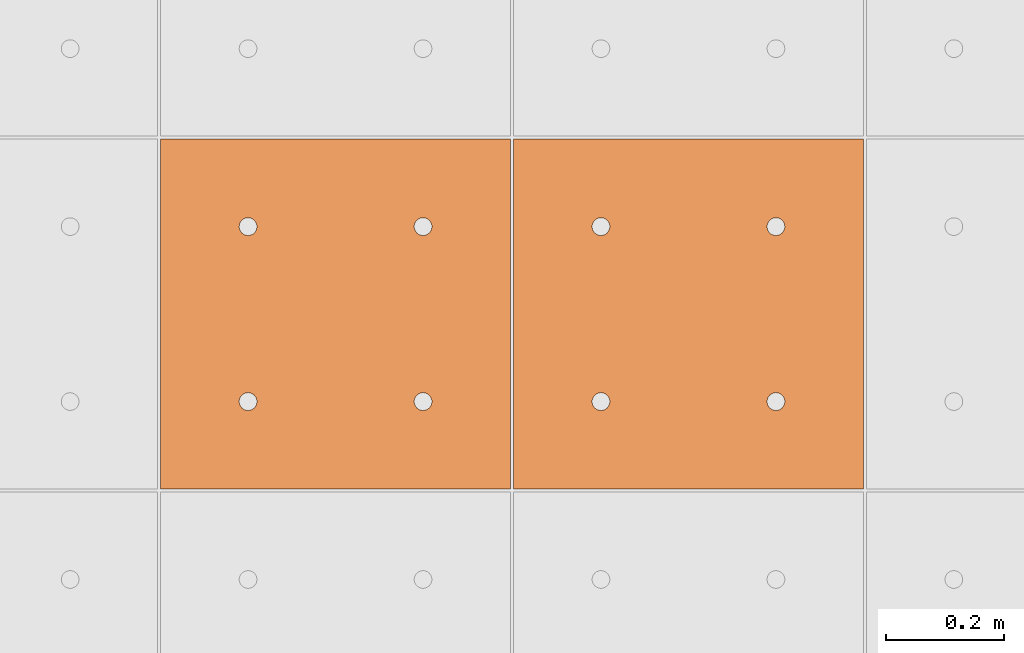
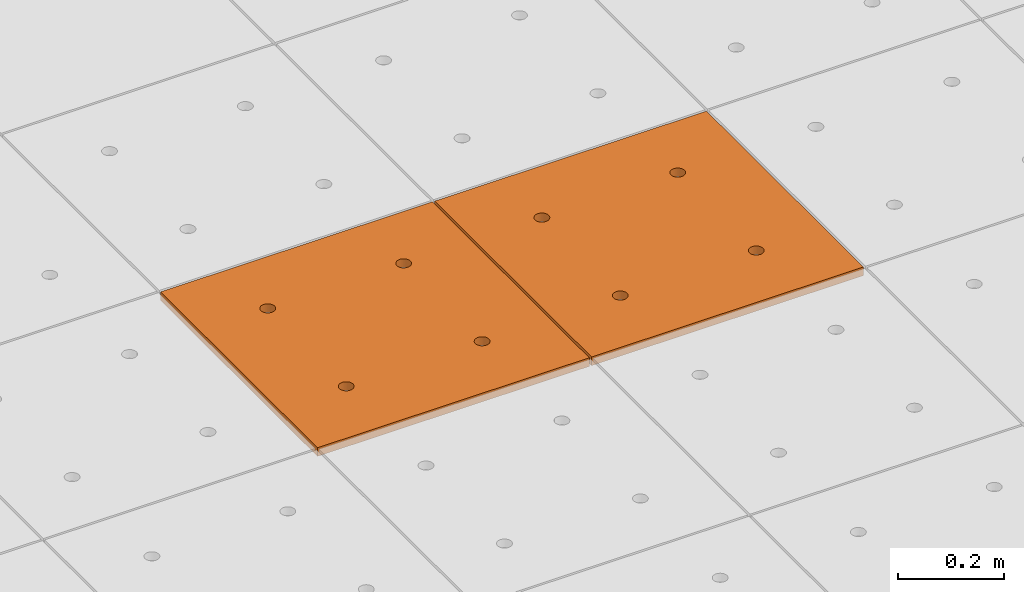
# One storey, part 262 of 338: 2 proxies, 1 element without a shape of its own.
"""IFC2X3 building model written with IfcOpenShell, lengths in millimetres."""

from ifc_helpers import new_model, entity, si_unit, converted_unit, derived_unit, money_unit, direction, frame, origin_with_axes, place, context, subcontext, project, spatial, faceted_brep, source, transform, mapped, material, type_object, type_shapes, element, aggregate, save


model = new_model("IFC2X3")

# Units and contexts
model_context = context("Model", 3, precision=0.01, world=origin_with_axes(), true_north=direction((0.0, 1.0)))
plan_context = context("Plan", 3, precision=0.01, world=origin_with_axes(), true_north=direction((0.0, 1.0)))
body_context = subcontext(model_context, "Body", "Model", "MODEL_VIEW")
ifc_project = project(units=[si_unit("LENGTHUNIT", "METRE", prefix="MILLI"), si_unit("AREAUNIT", "SQUARE_METRE"), si_unit("VOLUMEUNIT", "CUBIC_METRE"), converted_unit("PLANEANGLEUNIT", "DEGREE", entity("IfcPlaneAngleMeasure", 0.0174532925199), si_unit("PLANEANGLEUNIT", "RADIAN"), dimensions=[0, 0, 0, 0, 0, 0, 0]), money_unit("EUR"), converted_unit("TIMEUNIT", "Year", entity("IfcTimeMeasure", 31556926.0), si_unit("TIMEUNIT", "SECOND"), dimensions=[0, 0, 1, 0, 0, 0, 0]), si_unit("MASSUNIT", "GRAM", prefix="KILO"), si_unit("THERMODYNAMICTEMPERATUREUNIT", "DEGREE_CELSIUS"), si_unit("LUMINOUSINTENSITYUNIT", "LUMEN"), si_unit("ENERGYUNIT", "JOULE", prefix="MEGA"), derived_unit("THERMALCONDUCTANCEUNIT", [(si_unit("POWERUNIT", "WATT"), 1), (si_unit("LENGTHUNIT", "METRE"), -1), (si_unit("THERMODYNAMICTEMPERATUREUNIT", "KELVIN"), -1)]), derived_unit("SPECIFICHEATCAPACITYUNIT", [(si_unit("ENERGYUNIT", "JOULE"), 1), (si_unit("MASSUNIT", "GRAM", prefix="KILO"), -1), (si_unit("THERMODYNAMICTEMPERATUREUNIT", "KELVIN"), -1)]), derived_unit("MASSDENSITYUNIT", [(si_unit("MASSUNIT", "GRAM", prefix="KILO"), 1), (si_unit("VOLUMEUNIT", "CUBIC_METRE"), -1)])], contexts=[model_context, plan_context])

# Site, building, storey
site_placement = place(None, origin_with_axes())
site = spatial("IfcSite", under=ifc_project, at=site_placement, Name="Fortuinstraat Woensdrecht", CompositionType="ELEMENT")
building_placement = place(site_placement, origin_with_axes())
building = spatial("IfcBuilding", under=site, at=building_placement, Name="IKC Fortuna", CompositionType="ELEMENT")
storey_placement = place(building_placement, origin_with_axes())
storey = spatial("IfcBuildingStorey", under=building, at=storey_placement, Name="00 begane grond", CompositionType="ELEMENT", Elevation=0.0)

# Covering, proxies
covering_type = type_object("IfcCoveringType", Name="Curtain Wall Type", PredefinedType="CEILING")
covering_placement = place(storey_placement, frame((31656.9226967, 15748.5304598, 3210.0), z_axis=(0.0, 0.0, 1.0), x_axis=(1.0, 0.0, 0.0)))
covering = element("IfcCovering", 1, at=covering_placement, inside=storey, type_object=covering_type, Name="45_Plafondafwerking_P01", PredefinedType="CEILING")
ifc_material = material(Name="Gipsplaat")
building_element_proxy_type = type_object("IfcBuildingElementProxyType", Name="Main Panel 600 x 600 x 20", PredefinedType="NOTDEFINED")
shared_shape = source(origin_with_axes(), body_context, "Body", "Brep", [
    faceted_brep([(2.49999999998, 2.49999999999, -10.0), (300.0, 2.49999999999, -10.0), (300.0, 2.49999999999, 10.0), (2.49999999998, 2.49999999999, 10.0), (2.49999999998, 300.0, -10.0), (2.49999999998, 597.5, -10.0), (300.0, 597.5, -10.0), (597.5, 597.5, -10.0), (597.5, 300.0, -10.0), (597.5, 2.49999999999, -10.0), (166.25, 450.06232995, -10.0), (165.79423259, 452.64711538, -10.0), (164.896546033, 455.11348892, -10.0), (163.58421608, 457.38651108, -10.0), (161.897117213, 459.39711721, -10.0), (159.886511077, 461.08421608, -10.0), (157.613488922, 462.39654603, -10.0), (155.147115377, 463.29423259, -10.0), (152.562329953, 463.75, -10.0), (149.937670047, 463.75, -10.0), (147.352884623, 463.29423259, -10.0), (144.886511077, 462.39654603, -10.0), (142.613488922, 461.08421608, -10.0), (140.602882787, 459.39711721, -10.0), (138.91578392, 457.38651108, -10.0), (137.603453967, 455.11348892, -10.0), (136.705767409, 452.64711538, -10.0), (136.25, 450.06232995, -10.0), (136.25, 448.75, -10.0), (136.25, 447.43767005, -10.0), (136.705767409, 444.85288462, -10.0), (137.603453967, 442.38651108, -10.0), (138.91578392, 440.11348892, -10.0), (140.602882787, 438.10288279, -10.0), (142.613488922, 436.41578392, -10.0), (144.886511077, 435.10345397, -10.0), (147.352884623, 434.20576741, -10.0), (149.937670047, 433.75, -10.0), (152.562329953, 433.75, -10.0), (155.147115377, 434.20576741, -10.0), (157.613488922, 435.10345397, -10.0), (159.886511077, 436.41578392, -10.0), (161.897117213, 438.10288279, -10.0), (163.58421608, 440.11348892, -10.0), (164.896546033, 442.38651108, -10.0), (165.79423259, 444.85288462, -10.0), (166.25, 447.43767005, -10.0), (463.75, 450.06232995, -10.0), (463.29423259, 452.64711538, -10.0), (462.396546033, 455.11348892, -10.0), (461.08421608, 457.38651108, -10.0), (459.397117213, 459.39711721, -10.0), (457.386511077, 461.08421608, -10.0), (455.113488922, 462.39654603, -10.0), (452.647115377, 463.29423259, -10.0), (450.062329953, 463.75, -10.0), (447.437670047, 463.75, -10.0), (444.852884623, 463.29423259, -10.0), (442.386511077, 462.39654603, -10.0), (440.113488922, 461.08421608, -10.0), (438.102882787, 459.39711721, -10.0), (436.41578392, 457.38651108, -10.0), (435.103453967, 455.11348892, -10.0), (434.205767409, 452.64711538, -10.0), (433.75, 450.06232995, -10.0), (433.75, 448.75, -10.0), (433.75, 447.43767005, -10.0), (434.205767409, 444.85288462, -10.0), (435.103453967, 442.38651108, -10.0), (436.41578392, 440.11348892, -10.0), (438.102882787, 438.10288279, -10.0), (440.113488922, 436.41578392, -10.0), (442.386511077, 435.10345397, -10.0), (444.852884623, 434.20576741, -10.0), (447.437670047, 433.75, -10.0), (450.062329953, 433.75, -10.0), (452.647115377, 434.20576741, -10.0), (455.113488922, 435.10345397, -10.0), (457.386511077, 436.41578392, -10.0), (459.397117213, 438.10288279, -10.0), (461.08421608, 440.11348892, -10.0), (462.396546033, 442.38651108, -10.0), (463.29423259, 444.85288462, -10.0), (463.75, 447.43767005, -10.0), (463.75, 152.56232995, -10.0), (463.29423259, 155.14711538, -10.0), (462.396546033, 157.61348892, -10.0), (461.08421608, 159.88651108, -10.0), (459.397117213, 161.89711721, -10.0), (457.386511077, 163.58421608, -10.0), (455.113488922, 164.89654603, -10.0), (452.647115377, 165.79423259, -10.0), (450.062329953, 166.25, -10.0), (447.437670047, 166.25, -10.0), (444.852884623, 165.79423259, -10.0), (442.386511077, 164.89654603, -10.0), (440.113488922, 163.58421608, -10.0), (438.102882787, 161.89711721, -10.0), (436.41578392, 159.88651108, -10.0), (435.103453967, 157.61348892, -10.0), (434.205767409, 155.14711538, -10.0), (433.75, 152.56232995, -10.0), (433.75, 151.25, -10.0), (433.75, 149.93767005, -10.0), (434.205767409, 147.35288462, -10.0), (435.103453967, 144.88651108, -10.0), (436.41578392, 142.61348892, -10.0), (438.102882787, 140.60288279, -10.0), (440.113488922, 138.91578392, -10.0), (442.386511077, 137.60345397, -10.0), (444.852884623, 136.70576741, -10.0), (447.437670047, 136.25, -10.0), (450.062329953, 136.25, -10.0), (452.647115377, 136.70576741, -10.0), (455.113488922, 137.60345397, -10.0), (457.386511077, 138.91578392, -10.0), (459.397117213, 140.60288279, -10.0), (461.08421608, 142.61348892, -10.0), (462.396546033, 144.88651108, -10.0), (463.29423259, 147.35288462, -10.0), (463.75, 149.93767005, -10.0), (166.25, 152.56232995, -10.0), (165.79423259, 155.14711538, -10.0), (164.896546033, 157.61348892, -10.0), (163.58421608, 159.88651108, -10.0), (161.897117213, 161.89711721, -10.0), (159.886511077, 163.58421608, -10.0), (157.613488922, 164.89654603, -10.0), (155.147115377, 165.79423259, -10.0), (152.562329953, 166.25, -10.0), (149.937670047, 166.25, -10.0), (147.352884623, 165.79423259, -10.0), (144.886511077, 164.89654603, -10.0), (142.613488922, 163.58421608, -10.0), (140.602882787, 161.89711721, -10.0), (138.91578392, 159.88651108, -10.0), (137.603453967, 157.61348892, -10.0), (136.705767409, 155.14711538, -10.0), (136.25, 152.56232995, -10.0), (136.25, 151.25, -10.0), (136.25, 149.93767005, -10.0), (136.705767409, 147.35288462, -10.0), (137.603453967, 144.88651108, -10.0), (138.91578392, 142.61348892, -10.0), (140.602882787, 140.60288279, -10.0), (142.613488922, 138.91578392, -10.0), (144.886511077, 137.60345397, -10.0), (147.352884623, 136.70576741, -10.0), (149.937670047, 136.25, -10.0), (152.562329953, 136.25, -10.0), (155.147115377, 136.70576741, -10.0), (157.613488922, 137.60345397, -10.0), (159.886511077, 138.91578392, -10.0), (161.897117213, 140.60288279, -10.0), (163.58421608, 142.61348892, -10.0), (164.896546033, 144.88651108, -10.0), (165.79423259, 147.35288462, -10.0), (166.25, 149.93767005, -10.0), (597.5, 2.49999999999, 10.0), (597.5, 300.0, 10.0), (597.5, 597.5, 10.0), (300.0, 597.5, 10.0), (2.49999999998, 597.5, 10.0), (2.49999999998, 300.0, 10.0), (166.25, 450.06232995, 10.0), (166.25, 447.43767005, 10.0), (165.79423259, 444.85288462, 10.0), (164.896546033, 442.38651108, 10.0), (163.58421608, 440.11348892, 10.0), (161.897117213, 438.10288279, 10.0), (159.886511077, 436.41578392, 10.0), (157.613488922, 435.10345397, 10.0), (155.147115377, 434.20576741, 10.0), (152.562329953, 433.75, 10.0), (149.937670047, 433.75, 10.0), (147.352884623, 434.20576741, 10.0), (144.886511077, 435.10345397, 10.0), (142.613488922, 436.41578392, 10.0), (140.602882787, 438.10288279, 10.0), (138.91578392, 440.11348892, 10.0), (137.603453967, 442.38651108, 10.0), (136.705767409, 444.85288462, 10.0), (136.25, 447.43767005, 10.0), (136.25, 448.75, 10.0), (136.25, 450.06232995, 10.0), (136.705767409, 452.64711538, 10.0), (137.603453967, 455.11348892, 10.0), (138.91578392, 457.38651108, 10.0), (140.602882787, 459.39711721, 10.0), (142.613488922, 461.08421608, 10.0), (144.886511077, 462.39654603, 10.0), (147.352884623, 463.29423259, 10.0), (149.937670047, 463.75, 10.0), (152.562329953, 463.75, 10.0), (155.147115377, 463.29423259, 10.0), (157.613488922, 462.39654603, 10.0), (159.886511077, 461.08421608, 10.0), (161.897117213, 459.39711721, 10.0), (163.58421608, 457.38651108, 10.0), (164.896546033, 455.11348892, 10.0), (165.79423259, 452.64711538, 10.0), (463.75, 450.06232995, 10.0), (463.75, 447.43767005, 10.0), (463.29423259, 444.85288462, 10.0), (462.396546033, 442.38651108, 10.0), (461.08421608, 440.11348892, 10.0), (459.397117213, 438.10288279, 10.0), (457.386511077, 436.41578392, 10.0), (455.113488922, 435.10345397, 10.0), (452.647115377, 434.20576741, 10.0), (450.062329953, 433.75, 10.0), (447.437670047, 433.75, 10.0), (444.852884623, 434.20576741, 10.0), (442.386511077, 435.10345397, 10.0), (440.113488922, 436.41578392, 10.0), (438.102882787, 438.10288279, 10.0), (436.41578392, 440.11348892, 10.0), (435.103453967, 442.38651108, 10.0), (434.205767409, 444.85288462, 10.0), (433.75, 447.43767005, 10.0), (433.75, 448.75, 10.0), (433.75, 450.06232995, 10.0), (434.205767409, 452.64711538, 10.0), (435.103453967, 455.11348892, 10.0), (436.41578392, 457.38651108, 10.0), (438.102882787, 459.39711721, 10.0), (440.113488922, 461.08421608, 10.0), (442.386511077, 462.39654603, 10.0), (444.852884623, 463.29423259, 10.0), (447.437670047, 463.75, 10.0), (450.062329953, 463.75, 10.0), (452.647115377, 463.29423259, 10.0), (455.113488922, 462.39654603, 10.0), (457.386511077, 461.08421608, 10.0), (459.397117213, 459.39711721, 10.0), (461.08421608, 457.38651108, 10.0), (462.396546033, 455.11348892, 10.0), (463.29423259, 452.64711538, 10.0), (463.75, 152.56232995, 10.0), (463.75, 149.93767005, 10.0), (463.29423259, 147.35288462, 10.0), (462.396546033, 144.88651108, 10.0), (461.08421608, 142.61348892, 10.0), (459.397117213, 140.60288279, 10.0), (457.386511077, 138.91578392, 10.0), (455.113488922, 137.60345397, 10.0), (452.647115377, 136.70576741, 10.0), (450.062329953, 136.25, 10.0), (447.437670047, 136.25, 10.0), (444.852884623, 136.70576741, 10.0), (442.386511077, 137.60345397, 10.0), (440.113488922, 138.91578392, 10.0), (438.102882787, 140.60288279, 10.0), (436.41578392, 142.61348892, 10.0), (435.103453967, 144.88651108, 10.0), (434.205767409, 147.35288462, 10.0), (433.75, 149.93767005, 10.0), (433.75, 151.25, 10.0), (433.75, 152.56232995, 10.0), (434.205767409, 155.14711538, 10.0), (435.103453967, 157.61348892, 10.0), (436.41578392, 159.88651108, 10.0), (438.102882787, 161.89711721, 10.0), (440.113488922, 163.58421608, 10.0), (442.386511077, 164.89654603, 10.0), (444.852884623, 165.79423259, 10.0), (447.437670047, 166.25, 10.0), (450.062329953, 166.25, 10.0), (452.647115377, 165.79423259, 10.0), (455.113488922, 164.89654603, 10.0), (457.386511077, 163.58421608, 10.0), (459.397117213, 161.89711721, 10.0), (461.08421608, 159.88651108, 10.0), (462.396546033, 157.61348892, 10.0), (463.29423259, 155.14711538, 10.0), (166.25, 152.56232995, 10.0), (166.25, 149.93767005, 10.0), (165.79423259, 147.35288462, 10.0), (164.896546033, 144.88651108, 10.0), (163.58421608, 142.61348892, 10.0), (161.897117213, 140.60288279, 10.0), (159.886511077, 138.91578392, 10.0), (157.613488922, 137.60345397, 10.0), (155.147115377, 136.70576741, 10.0), (152.562329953, 136.25, 10.0), (149.937670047, 136.25, 10.0), (147.352884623, 136.70576741, 10.0), (144.886511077, 137.60345397, 10.0), (142.613488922, 138.91578392, 10.0), (140.602882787, 140.60288279, 10.0), (138.91578392, 142.61348892, 10.0), (137.603453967, 144.88651108, 10.0), (136.705767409, 147.35288462, 10.0), (136.25, 149.93767005, 10.0), (136.25, 151.25, 10.0), (136.25, 152.56232995, 10.0), (136.705767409, 155.14711538, 10.0), (137.603453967, 157.61348892, 10.0), (138.91578392, 159.88651108, 10.0), (140.602882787, 161.89711721, 10.0), (142.613488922, 163.58421608, 10.0), (144.886511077, 164.89654603, 10.0), (147.352884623, 165.79423259, 10.0), (149.937670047, 166.25, 10.0), (152.562329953, 166.25, 10.0), (155.147115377, 165.79423259, 10.0), (157.613488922, 164.89654603, 10.0), (159.886511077, 163.58421608, 10.0), (161.897117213, 161.89711721, 10.0), (163.58421608, 159.88651108, 10.0), (164.896546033, 157.61348892, 10.0), (165.79423259, 155.14711538, 10.0)], [[[0, 1, 2, 3]], [[0, 4, 5, 6, 7, 8, 9, 1], [10, 11, 12, 13, 14, 15, 16, 17, 18, 19, 20, 21, 22, 23, 24, 25, 26, 27, 28, 29, 30, 31, 32, 33, 34, 35, 36, 37, 38, 39, 40, 41, 42, 43, 44, 45, 46], [47, 48, 49, 50, 51, 52, 53, 54, 55, 56, 57, 58, 59, 60, 61, 62, 63, 64, 65, 66, 67, 68, 69, 70, 71, 72, 73, 74, 75, 76, 77, 78, 79, 80, 81, 82, 83], [84, 85, 86, 87, 88, 89, 90, 91, 92, 93, 94, 95, 96, 97, 98, 99, 100, 101, 102, 103, 104, 105, 106, 107, 108, 109, 110, 111, 112, 113, 114, 115, 116, 117, 118, 119, 120], [121, 122, 123, 124, 125, 126, 127, 128, 129, 130, 131, 132, 133, 134, 135, 136, 137, 138, 139, 140, 141, 142, 143, 144, 145, 146, 147, 148, 149, 150, 151, 152, 153, 154, 155, 156, 157]], [[1, 9, 158, 2]], [[3, 2, 158, 159, 160, 161, 162, 163], [164, 165, 166, 167, 168, 169, 170, 171, 172, 173, 174, 175, 176, 177, 178, 179, 180, 181, 182, 183, 184, 185, 186, 187, 188, 189, 190, 191, 192, 193, 194, 195, 196, 197, 198, 199, 200], [201, 202, 203, 204, 205, 206, 207, 208, 209, 210, 211, 212, 213, 214, 215, 216, 217, 218, 219, 220, 221, 222, 223, 224, 225, 226, 227, 228, 229, 230, 231, 232, 233, 234, 235, 236, 237], [238, 239, 240, 241, 242, 243, 244, 245, 246, 247, 248, 249, 250, 251, 252, 253, 254, 255, 256, 257, 258, 259, 260, 261, 262, 263, 264, 265, 266, 267, 268, 269, 270, 271, 272, 273, 274], [275, 276, 277, 278, 279, 280, 281, 282, 283, 284, 285, 286, 287, 288, 289, 290, 291, 292, 293, 294, 295, 296, 297, 298, 299, 300, 301, 302, 303, 304, 305, 306, 307, 308, 309, 310, 311]], [[4, 0, 3, 163]], [[5, 4, 163, 162]], [[6, 5, 162, 161]], [[7, 6, 161, 160]], [[8, 7, 160, 159]], [[9, 8, 159, 158]], [[11, 10, 164, 200]], [[12, 11, 200, 199]], [[13, 12, 199, 198]], [[14, 13, 198, 197]], [[15, 14, 197, 196]], [[16, 15, 196, 195]], [[17, 16, 195, 194]], [[18, 17, 194, 193]], [[19, 18, 193, 192]], [[20, 19, 192, 191]], [[21, 20, 191, 190]], [[22, 21, 190, 189]], [[23, 22, 189, 188]], [[24, 23, 188, 187]], [[25, 24, 187, 186]], [[26, 25, 186, 185]], [[27, 26, 185, 184]], [[28, 27, 184, 183]], [[29, 28, 183, 182]], [[30, 29, 182, 181]], [[31, 30, 181, 180]], [[32, 31, 180, 179]], [[33, 32, 179, 178]], [[34, 33, 178, 177]], [[35, 34, 177, 176]], [[36, 35, 176, 175]], [[37, 36, 175, 174]], [[38, 37, 174, 173]], [[39, 38, 173, 172]], [[40, 39, 172, 171]], [[41, 40, 171, 170]], [[42, 41, 170, 169]], [[43, 42, 169, 168]], [[44, 43, 168, 167]], [[45, 44, 167, 166]], [[46, 45, 166, 165]], [[10, 46, 165, 164]], [[48, 47, 201, 237]], [[49, 48, 237, 236]], [[50, 49, 236, 235]], [[51, 50, 235, 234]], [[52, 51, 234, 233]], [[53, 52, 233, 232]], [[54, 53, 232, 231]], [[55, 54, 231, 230]], [[56, 55, 230, 229]], [[57, 56, 229, 228]], [[58, 57, 228, 227]], [[59, 58, 227, 226]], [[60, 59, 226, 225]], [[61, 60, 225, 224]], [[62, 61, 224, 223]], [[63, 62, 223, 222]], [[64, 63, 222, 221]], [[65, 64, 221, 220]], [[66, 65, 220, 219]], [[67, 66, 219, 218]], [[68, 67, 218, 217]], [[69, 68, 217, 216]], [[70, 69, 216, 215]], [[71, 70, 215, 214]], [[72, 71, 214, 213]], [[73, 72, 213, 212]], [[74, 73, 212, 211]], [[75, 74, 211, 210]], [[76, 75, 210, 209]], [[77, 76, 209, 208]], [[78, 77, 208, 207]], [[79, 78, 207, 206]], [[80, 79, 206, 205]], [[81, 80, 205, 204]], [[82, 81, 204, 203]], [[83, 82, 203, 202]], [[47, 83, 202, 201]], [[85, 84, 238, 274]], [[86, 85, 274, 273]], [[87, 86, 273, 272]], [[88, 87, 272, 271]], [[89, 88, 271, 270]], [[90, 89, 270, 269]], [[91, 90, 269, 268]], [[92, 91, 268, 267]], [[93, 92, 267, 266]], [[94, 93, 266, 265]], [[95, 94, 265, 264]], [[96, 95, 264, 263]], [[97, 96, 263, 262]], [[98, 97, 262, 261]], [[99, 98, 261, 260]], [[100, 99, 260, 259]], [[101, 100, 259, 258]], [[102, 101, 258, 257]], [[103, 102, 257, 256]], [[104, 103, 256, 255]], [[105, 104, 255, 254]], [[106, 105, 254, 253]], [[107, 106, 253, 252]], [[108, 107, 252, 251]], [[109, 108, 251, 250]], [[110, 109, 250, 249]], [[111, 110, 249, 248]], [[112, 111, 248, 247]], [[113, 112, 247, 246]], [[114, 113, 246, 245]], [[115, 114, 245, 244]], [[116, 115, 244, 243]], [[117, 116, 243, 242]], [[118, 117, 242, 241]], [[119, 118, 241, 240]], [[120, 119, 240, 239]], [[84, 120, 239, 238]], [[122, 121, 275, 311]], [[123, 122, 311, 310]], [[124, 123, 310, 309]], [[125, 124, 309, 308]], [[126, 125, 308, 307]], [[127, 126, 307, 306]], [[128, 127, 306, 305]], [[129, 128, 305, 304]], [[130, 129, 304, 303]], [[131, 130, 303, 302]], [[132, 131, 302, 301]], [[133, 132, 301, 300]], [[134, 133, 300, 299]], [[135, 134, 299, 298]], [[136, 135, 298, 297]], [[137, 136, 297, 296]], [[138, 137, 296, 295]], [[139, 138, 295, 294]], [[140, 139, 294, 293]], [[141, 140, 293, 292]], [[142, 141, 292, 291]], [[143, 142, 291, 290]], [[144, 143, 290, 289]], [[145, 144, 289, 288]], [[146, 145, 288, 287]], [[147, 146, 287, 286]], [[148, 147, 286, 285]], [[149, 148, 285, 284]], [[150, 149, 284, 283]], [[151, 150, 283, 282]], [[152, 151, 282, 281]], [[153, 152, 281, 280]], [[154, 153, 280, 279]], [[155, 154, 279, 278]], [[156, 155, 278, 277]], [[157, 156, 277, 276]], [[121, 157, 276, 275]]]),
])
type_shapes(building_element_proxy_type, [shared_shape])
proxy_1_placement = place(covering_placement, frame((-600.0, 600.0, 1.15907283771e-10), z_axis=(0.0, 0.0, 1.0), x_axis=(1.0, 0.0, 0.0)))
proxy_1 = element("IfcBuildingElementProxy", 2, at=proxy_1_placement, type_object=building_element_proxy_type, material=ifc_material, Name="__600x636 Rockfon Krios", context=body_context, shape_type="MappedRepresentation", body=[
    mapped(shared_shape, transform((300.0, 300.0, 0.0), x_axis=(-1.0, 0.0, 0.0), y_axis=(0.0, -1.0, 0.0), z_axis=(0.0, 0.0, 1.0))),
])
proxy_2_placement = place(covering_placement, frame((-1200.0, 600.0, 1.35891298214e-10), z_axis=(0.0, 0.0, 1.0), x_axis=(1.0, 0.0, 0.0)))
proxy_2 = element("IfcBuildingElementProxy", 3, at=proxy_2_placement, type_object=building_element_proxy_type, material=ifc_material, Name="__600x640 Rockfon Krios", context=body_context, shape_type="MappedRepresentation", body=[
    mapped(shared_shape, transform((300.0, 300.0, 0.0), x_axis=(-1.0, 0.0, 0.0), y_axis=(0.0, -1.0, 0.0), z_axis=(0.0, 0.0, 1.0))),
])
aggregate(covering, [proxy_1, proxy_2])

save(model, "model.ifc")
